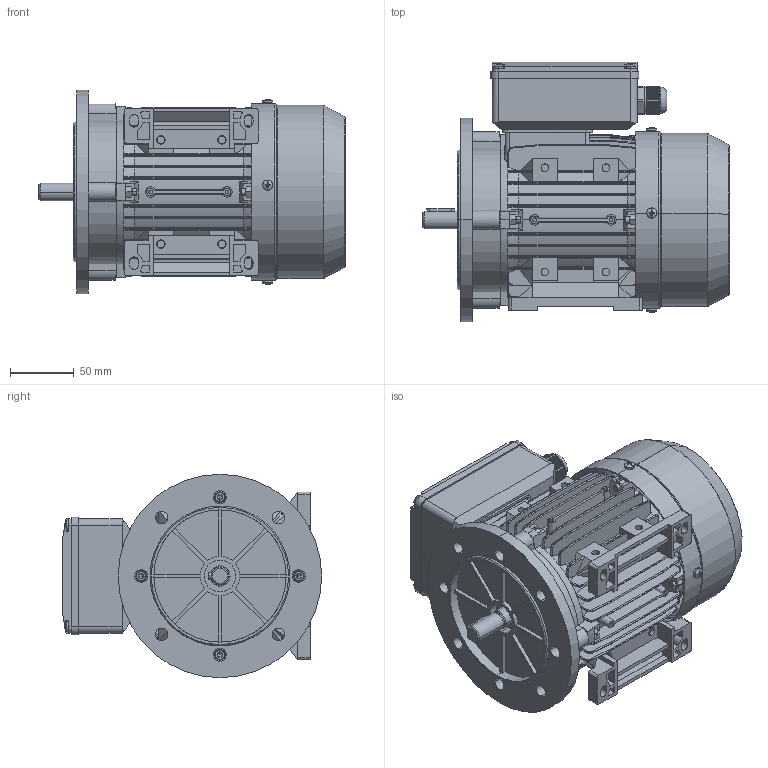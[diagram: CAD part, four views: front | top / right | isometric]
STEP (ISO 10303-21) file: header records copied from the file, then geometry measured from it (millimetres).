
FILE_DESCRIPTION (( 'STEP AP214' ), '1' );
FILE_NAME ('BMM0025.07B435.11.step', '2020-04-23T12:46:41', ( '' ), ( '' ), 'SwSTEP 2.0', 'SolidWorks 2019', '' );
FILE_SCHEMA (( 'AUTOMOTIVE_DESIGN' ));
Length unit declared in the file: millimetre
Products named in the file (1): BMM0025.07B435.11
Bounding box: 241 x 204 x 160 mm (x, y, z)
Volume: 773453.4 mm3; surface area: 535288.1 mm2
Topology: 35 solids, 35 shells, 3452 faces, 9031 edges, 5655 vertices
Faces by surface type: plane 1873, cylinder 988, cone 217, bspline 142, sphere 118, torus 114
Entity records: 120918 total; most frequent: CARTESIAN_POINT 37486, ORIENTED_EDGE 17898, DIRECTION 16480, EDGE_CURVE 8949, VERTEX_POINT 5655, AXIS2_PLACEMENT_3D 5633, VECTOR 5214, LINE 5214
